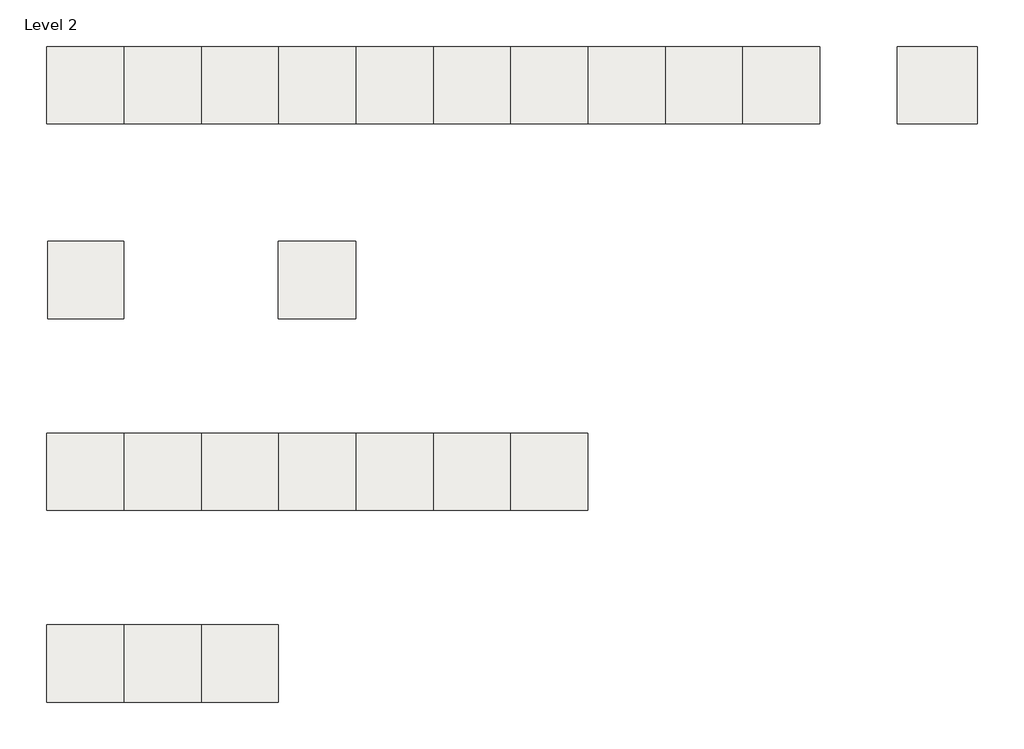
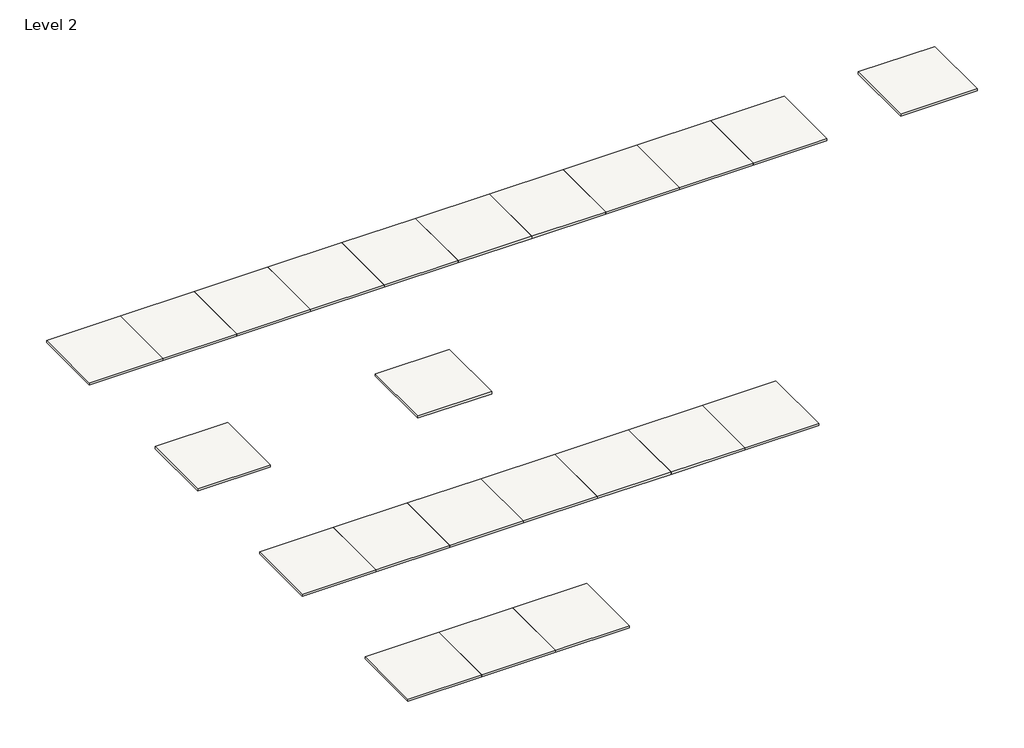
# One storey: 23 slabs.
"""IFC4 building model written with IfcOpenShell, lengths in millimetres."""

from ifc_helpers import new_model, si_unit, frame, origin, place, context, project, spatial, polyline, outline, extrude, element, save

model = new_model("IFC4")

# Units and contexts
model_context = context("Model", 3, world=origin())
ifc_project = project(units=[si_unit("LENGTHUNIT", "METRE", prefix="MILLI")], contexts=[model_context])

# Site, building, storey
site = spatial("IfcSite", under=ifc_project)
building = spatial("IfcBuilding", under=site)
storey = spatial("IfcBuildingStorey", under=building, Name="Level 2", Elevation=3000.0)

# Slabs
placement = place(None, origin())
element("IfcSlab", 1, ObjectType="Generic 150mm", at=placement, inside=storey, context=model_context, shape_type="SweptSolid", body=[
    extrude(outline(polyline([(5112.2416021, -3973.3850129), (5112.2416021, -8973.3850129), (195.8983303, -8973.3850129), (195.8983303, -3973.3850129), (5112.2416021, -3973.3850129)])), frame((0.0, 0.0, 2850.0), z_axis=(0.0, 0.0, 1.0), x_axis=(1.0, 0.0, 0.0)), (0.0, 0.0, 1.0), 150.0),
])
element("IfcSlab", 2, ObjectType="Generic 150mm", at=placement, inside=storey, context=model_context, shape_type="SweptSolid", body=[
    extrude(outline(polyline([(20112.2416021, -3973.3850129), (20112.2416021, -8973.3850129), (15112.2416021, -8973.3850129), (15112.2416021, -3973.3850129), (20112.2416021, -3973.3850129)])), frame((0.0, 0.0, 2850.0), z_axis=(0.0, 0.0, 1.0), x_axis=(1.0, 0.0, 0.0)), (0.0, 0.0, 1.0), 150.0),
])
element("IfcSlab", 3, ObjectType="Generic 150mm", at=placement, inside=storey, context=model_context, shape_type="SweptSolid", body=[
    extrude(outline(polyline([(5112.2416021, -16373.3850129), (5112.2416021, -21373.3850129), (112.2416021, -21373.3850129), (112.2416021, -16373.3850129), (5112.2416021, -16373.3850129)])), frame((0.0, 0.0, 2850.0), z_axis=(0.0, 0.0, 1.0), x_axis=(1.0, 0.0, 0.0)), (0.0, 0.0, 1.0), 150.0),
])
element("IfcSlab", 4, ObjectType="Generic 150mm", at=placement, inside=storey, context=model_context, shape_type="SweptSolid", body=[
    extrude(outline(polyline([(10112.2416021, -16373.3850129), (10112.2416021, -21373.3850129), (5112.2416021, -21373.3850129), (5112.2416021, -16373.3850129), (10112.2416021, -16373.3850129)])), frame((0.0, 0.0, 2850.0), z_axis=(0.0, 0.0, 1.0), x_axis=(1.0, 0.0, 0.0)), (0.0, 0.0, 1.0), 150.0),
])
element("IfcSlab", 5, ObjectType="Generic 150mm", at=placement, inside=storey, context=model_context, shape_type="SweptSolid", body=[
    extrude(outline(polyline([(15112.2416021, -16373.3850129), (15112.2416021, -21373.3850129), (10112.2416021, -21373.3850129), (10112.2416021, -16373.3850129), (15112.2416021, -16373.3850129)])), frame((0.0, 0.0, 2850.0), z_axis=(0.0, 0.0, 1.0), x_axis=(1.0, 0.0, 0.0)), (0.0, 0.0, 1.0), 150.0),
])
element("IfcSlab", 6, ObjectType="Generic 150mm", at=placement, inside=storey, context=model_context, shape_type="SweptSolid", body=[
    extrude(outline(polyline([(20112.2416021, -16373.3850129), (20112.2416021, -21373.3850129), (15112.2416021, -21373.3850129), (15112.2416021, -16373.3850129), (20112.2416021, -16373.3850129)])), frame((0.0, 0.0, 2850.0), z_axis=(0.0, 0.0, 1.0), x_axis=(1.0, 0.0, 0.0)), (0.0, 0.0, 1.0), 150.0),
])
element("IfcSlab", 7, ObjectType="Generic 150mm", at=placement, inside=storey, context=model_context, shape_type="SweptSolid", body=[
    extrude(outline(polyline([(25112.2416021, -16373.3850129), (25112.2416021, -21373.3850129), (20112.2416021, -21373.3850129), (20112.2416021, -16373.3850129), (25112.2416021, -16373.3850129)])), frame((0.0, 0.0, 2850.0), z_axis=(0.0, 0.0, 1.0), x_axis=(1.0, 0.0, 0.0)), (0.0, 0.0, 1.0), 150.0),
])
element("IfcSlab", 8, ObjectType="Generic 150mm", at=placement, inside=storey, context=model_context, shape_type="SweptSolid", body=[
    extrude(outline(polyline([(30112.2416021, -16373.3850129), (30112.2416021, -21373.3850129), (25112.2416021, -21373.3850129), (25112.2416021, -16373.3850129), (30112.2416021, -16373.3850129)])), frame((0.0, 0.0, 2850.0), z_axis=(0.0, 0.0, 1.0), x_axis=(1.0, 0.0, 0.0)), (0.0, 0.0, 1.0), 150.0),
])
element("IfcSlab", 9, ObjectType="Generic 150mm", at=placement, inside=storey, context=model_context, shape_type="SweptSolid", body=[
    extrude(outline(polyline([(35112.2416021, -16373.3850129), (35112.2416021, -21373.3850129), (30112.2416021, -21373.3850129), (30112.2416021, -16373.3850129), (35112.2416021, -16373.3850129)])), frame((0.0, 0.0, 2850.0), z_axis=(0.0, 0.0, 1.0), x_axis=(1.0, 0.0, 0.0)), (0.0, 0.0, 1.0), 150.0),
])
element("IfcSlab", 10, ObjectType="Generic 150mm", at=placement, inside=storey, context=model_context, shape_type="SweptSolid", body=[
    extrude(outline(polyline([(5112.2416021, 8626.6149871), (5112.2416021, 3626.6149871), (112.2416021, 3626.6149871), (112.2416021, 8626.6149871), (5112.2416021, 8626.6149871)])), frame((0.0, 0.0, 2850.0), z_axis=(0.0, 0.0, 1.0), x_axis=(1.0, 0.0, 0.0)), (0.0, 0.0, 1.0), 150.0),
])
element("IfcSlab", 11, ObjectType="Generic 150mm", at=placement, inside=storey, context=model_context, shape_type="SweptSolid", body=[
    extrude(outline(polyline([(10112.2416021, 8626.6149871), (10112.2416021, 3626.6149871), (5112.2416021, 3626.6149871), (5112.2416021, 8626.6149871), (10112.2416021, 8626.6149871)])), frame((0.0, 0.0, 2850.0), z_axis=(0.0, 0.0, 1.0), x_axis=(1.0, 0.0, 0.0)), (0.0, 0.0, 1.0), 150.0),
])
element("IfcSlab", 12, ObjectType="Generic 150mm", at=placement, inside=storey, context=model_context, shape_type="SweptSolid", body=[
    extrude(outline(polyline([(15112.2416021, 8626.6149871), (15112.2416021, 3626.6149871), (10112.2416021, 3626.6149871), (10112.2416021, 8626.6149871), (15112.2416021, 8626.6149871)])), frame((0.0, 0.0, 2850.0), z_axis=(0.0, 0.0, 1.0), x_axis=(1.0, 0.0, 0.0)), (0.0, 0.0, 1.0), 150.0),
])
element("IfcSlab", 13, ObjectType="Generic 150mm", at=placement, inside=storey, context=model_context, shape_type="SweptSolid", body=[
    extrude(outline(polyline([(20112.2416021, 8626.6149871), (20112.2416021, 3626.6149871), (15112.2416021, 3626.6149871), (15112.2416021, 8626.6149871), (20112.2416021, 8626.6149871)])), frame((0.0, 0.0, 2850.0), z_axis=(0.0, 0.0, 1.0), x_axis=(1.0, 0.0, 0.0)), (0.0, 0.0, 1.0), 150.0),
])
element("IfcSlab", 14, ObjectType="Generic 150mm", at=placement, inside=storey, context=model_context, shape_type="SweptSolid", body=[
    extrude(outline(polyline([(25112.2416021, 8626.6149871), (25112.2416021, 3626.6149871), (20112.2416021, 3626.6149871), (20112.2416021, 8626.6149871), (25112.2416021, 8626.6149871)])), frame((0.0, 0.0, 2850.0), z_axis=(0.0, 0.0, 1.0), x_axis=(1.0, 0.0, 0.0)), (0.0, 0.0, 1.0), 150.0),
])
element("IfcSlab", 15, ObjectType="Generic 150mm", at=placement, inside=storey, context=model_context, shape_type="SweptSolid", body=[
    extrude(outline(polyline([(30112.2416021, 8626.6149871), (30112.2416021, 3626.6149871), (25112.2416021, 3626.6149871), (25112.2416021, 8626.6149871), (30112.2416021, 8626.6149871)])), frame((0.0, 0.0, 2850.0), z_axis=(0.0, 0.0, 1.0), x_axis=(1.0, 0.0, 0.0)), (0.0, 0.0, 1.0), 150.0),
])
element("IfcSlab", 16, ObjectType="Generic 150mm", at=placement, inside=storey, context=model_context, shape_type="SweptSolid", body=[
    extrude(outline(polyline([(35112.2416021, 8626.6149871), (35112.2416021, 3626.6149871), (30112.2416021, 3626.6149871), (30112.2416021, 8626.6149871), (35112.2416021, 8626.6149871)])), frame((0.0, 0.0, 2850.0), z_axis=(0.0, 0.0, 1.0), x_axis=(1.0, 0.0, 0.0)), (0.0, 0.0, 1.0), 150.0),
])
element("IfcSlab", 17, ObjectType="Generic 150mm", at=placement, inside=storey, context=model_context, shape_type="SweptSolid", body=[
    extrude(outline(polyline([(40112.2416021, 8626.6149871), (40112.2416021, 3626.6149871), (35112.2416021, 3626.6149871), (35112.2416021, 8626.6149871), (40112.2416021, 8626.6149871)])), frame((0.0, 0.0, 2850.0), z_axis=(0.0, 0.0, 1.0), x_axis=(1.0, 0.0, 0.0)), (0.0, 0.0, 1.0), 150.0),
])
element("IfcSlab", 18, ObjectType="Generic 150mm", at=placement, inside=storey, context=model_context, shape_type="SweptSolid", body=[
    extrude(outline(polyline([(45112.2416021, 8626.6149871), (45112.2416021, 3626.6149871), (40112.2416021, 3626.6149871), (40112.2416021, 8626.6149871), (45112.2416021, 8626.6149871)])), frame((0.0, 0.0, 2850.0), z_axis=(0.0, 0.0, 1.0), x_axis=(1.0, 0.0, 0.0)), (0.0, 0.0, 1.0), 150.0),
])
element("IfcSlab", 19, ObjectType="Generic 150mm", at=placement, inside=storey, context=model_context, shape_type="SweptSolid", body=[
    extrude(outline(polyline([(50112.2416021, 8626.6149871), (50112.2416021, 3626.6149871), (45112.2416021, 3626.6149871), (45112.2416021, 8626.6149871), (50112.2416021, 8626.6149871)])), frame((0.0, 0.0, 2850.0), z_axis=(0.0, 0.0, 1.0), x_axis=(1.0, 0.0, 0.0)), (0.0, 0.0, 1.0), 150.0),
])
element("IfcSlab", 20, ObjectType="Generic 150mm", at=placement, inside=storey, context=model_context, shape_type="SweptSolid", body=[
    extrude(outline(polyline([(5112.2416021, -28773.3850129), (5112.2416021, -33773.3850129), (112.2416021, -33773.3850129), (112.2416021, -28773.3850129), (5112.2416021, -28773.3850129)])), frame((0.0, 0.0, 2850.0), z_axis=(0.0, 0.0, 1.0), x_axis=(1.0, 0.0, 0.0)), (0.0, 0.0, 1.0), 150.0),
])
element("IfcSlab", 21, ObjectType="Generic 150mm", at=placement, inside=storey, context=model_context, shape_type="SweptSolid", body=[
    extrude(outline(polyline([(10112.2416021, -28773.3850129), (10112.2416021, -33773.3850129), (5112.2416021, -33773.3850129), (5112.2416021, -28773.3850129), (10112.2416021, -28773.3850129)])), frame((0.0, 0.0, 2850.0), z_axis=(0.0, 0.0, 1.0), x_axis=(1.0, 0.0, 0.0)), (0.0, 0.0, 1.0), 150.0),
])
element("IfcSlab", 22, ObjectType="Generic 150mm", at=placement, inside=storey, context=model_context, shape_type="SweptSolid", body=[
    extrude(outline(polyline([(15112.2416021, -28773.3850129), (15112.2416021, -33773.3850129), (10112.2416021, -33773.3850129), (10112.2416021, -28773.3850129), (15112.2416021, -28773.3850129)])), frame((0.0, 0.0, 2850.0), z_axis=(0.0, 0.0, 1.0), x_axis=(1.0, 0.0, 0.0)), (0.0, 0.0, 1.0), 150.0),
])
element("IfcSlab", 23, ObjectType="Generic 150mm", at=placement, inside=storey, context=model_context, shape_type="SweptSolid", body=[
    extrude(outline(polyline([(60312.2416021, 8626.6149871), (60312.2416021, 3626.6149871), (55112.2416021, 3626.6149871), (55112.2416021, 8626.6149871), (60312.2416021, 8626.6149871)])), frame((0.0, 0.0, 2850.0), z_axis=(0.0, 0.0, 1.0), x_axis=(1.0, 0.0, 0.0)), (0.0, 0.0, 1.0), 150.0),
])

save(model, "model.ifc")
